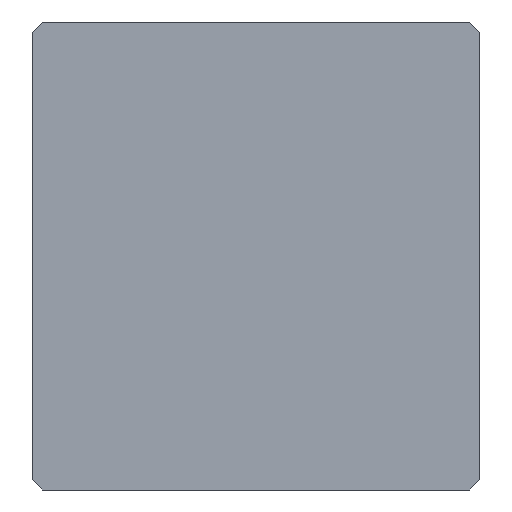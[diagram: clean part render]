
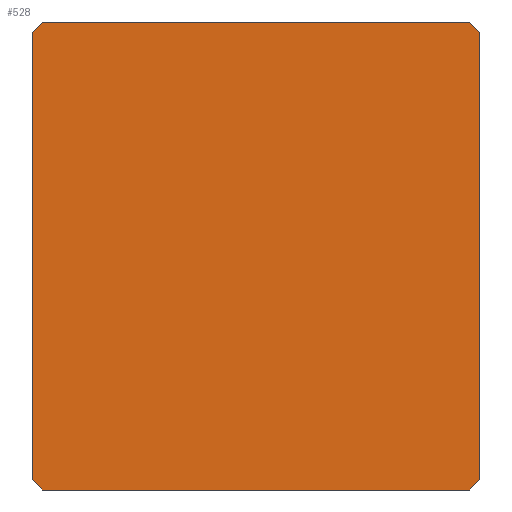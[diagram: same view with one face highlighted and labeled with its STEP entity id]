
A CAD part, front view. The second image highlights one B-rep face of the part: STEP entity #528.
In plain terms, the highlighted planar face has unit normal (0, -1, 0).
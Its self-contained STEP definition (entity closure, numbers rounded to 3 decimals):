
#460=AXIS2_PLACEMENT_3D('Plane Axis2P3D',#457,#458,#459) ;
#457=CARTESIAN_POINT('Axis2P3D Location',(-3.,-4.,23.)) ;
#462=CARTESIAN_POINT('Line Origine',(-10.75,-4.,0.25)) ;
#466=CARTESIAN_POINT('Vertex',(-10.5,-4.,0.)) ;
#468=CARTESIAN_POINT('Vertex',(-11.,-4.,0.5)) ;
#471=CARTESIAN_POINT('Line Origine',(0.,-4.,0.)) ;
#475=CARTESIAN_POINT('Vertex',(10.5,-4.,0.)) ;
#478=CARTESIAN_POINT('Line Origine',(10.75,-4.,0.25)) ;
#482=CARTESIAN_POINT('Vertex',(11.,-4.,0.5)) ;
#485=CARTESIAN_POINT('Line Origine',(11.,-4.,11.5)) ;
#489=CARTESIAN_POINT('Vertex',(11.,-4.,22.5)) ;
#492=CARTESIAN_POINT('Line Origine',(10.75,-4.,22.75)) ;
#496=CARTESIAN_POINT('Vertex',(10.5,-4.,23.)) ;
#499=CARTESIAN_POINT('Line Origine',(0.,-4.,23.)) ;
#503=CARTESIAN_POINT('Vertex',(-10.5,-4.,23.)) ;
#506=CARTESIAN_POINT('Line Origine',(-10.75,-4.,22.75)) ;
#510=CARTESIAN_POINT('Vertex',(-11.,-4.,22.5)) ;
#513=CARTESIAN_POINT('Line Origine',(-11.,-4.,11.5)) ;
#458=DIRECTION('Axis2P3D Direction',(-0.,1.,0.)) ;
#459=DIRECTION('Axis2P3D XDirection',(1.,0.,0.)) ;
#463=DIRECTION('Vector Direction',(0.707,0.,-0.707)) ;
#472=DIRECTION('Vector Direction',(1.,0.,0.)) ;
#479=DIRECTION('Vector Direction',(0.707,0.,0.707)) ;
#486=DIRECTION('Vector Direction',(0.,0.,-1.)) ;
#493=DIRECTION('Vector Direction',(-0.707,0.,0.707)) ;
#500=DIRECTION('Vector Direction',(1.,0.,0.)) ;
#507=DIRECTION('Vector Direction',(0.707,0.,0.707)) ;
#514=DIRECTION('Vector Direction',(0.,0.,-1.)) ;
#464=VECTOR('Line Direction',#463,1.) ;
#473=VECTOR('Line Direction',#472,1.) ;
#480=VECTOR('Line Direction',#479,1.) ;
#487=VECTOR('Line Direction',#486,1.) ;
#494=VECTOR('Line Direction',#493,1.) ;
#501=VECTOR('Line Direction',#500,1.) ;
#508=VECTOR('Line Direction',#507,1.) ;
#515=VECTOR('Line Direction',#514,1.) ;
#519=ORIENTED_EDGE('',*,*,#470,.F.) ;
#520=ORIENTED_EDGE('',*,*,#477,.T.) ;
#521=ORIENTED_EDGE('',*,*,#484,.F.) ;
#522=ORIENTED_EDGE('',*,*,#491,.F.) ;
#523=ORIENTED_EDGE('',*,*,#498,.F.) ;
#524=ORIENTED_EDGE('',*,*,#505,.T.) ;
#525=ORIENTED_EDGE('',*,*,#512,.F.) ;
#526=ORIENTED_EDGE('',*,*,#517,.T.) ;
#528=ADVANCED_FACE('\X2\96F64EF651E04F554F53\X0\',(#527),#461,.F.) ;
#470=EDGE_CURVE('',#467,#469,#465,.F.) ;
#477=EDGE_CURVE('',#467,#476,#474,.T.) ;
#484=EDGE_CURVE('',#483,#476,#481,.F.) ;
#491=EDGE_CURVE('',#490,#483,#488,.T.) ;
#498=EDGE_CURVE('',#497,#490,#495,.F.) ;
#505=EDGE_CURVE('',#497,#504,#502,.F.) ;
#512=EDGE_CURVE('',#511,#504,#509,.T.) ;
#517=EDGE_CURVE('',#511,#469,#516,.T.) ;
#518=EDGE_LOOP('',(#519,#520,#521,#522,#523,#524,#525,#526)) ;
#527=FACE_OUTER_BOUND('',#518,.T.) ;
#465=LINE('Line',#462,#464) ;
#474=LINE('Line',#471,#473) ;
#481=LINE('Line',#478,#480) ;
#488=LINE('Line',#485,#487) ;
#495=LINE('Line',#492,#494) ;
#502=LINE('Line',#499,#501) ;
#509=LINE('Line',#506,#508) ;
#516=LINE('Line',#513,#515) ;
#461=PLANE('Plane',#460) ;
#467=VERTEX_POINT('',#466) ;
#469=VERTEX_POINT('',#468) ;
#476=VERTEX_POINT('',#475) ;
#483=VERTEX_POINT('',#482) ;
#490=VERTEX_POINT('',#489) ;
#497=VERTEX_POINT('',#496) ;
#504=VERTEX_POINT('',#503) ;
#511=VERTEX_POINT('',#510) ;
